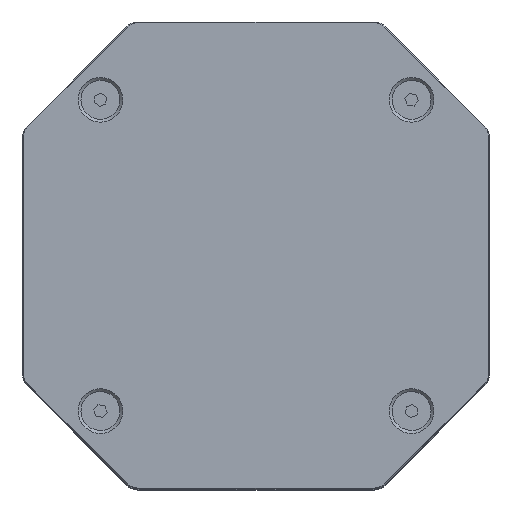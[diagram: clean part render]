
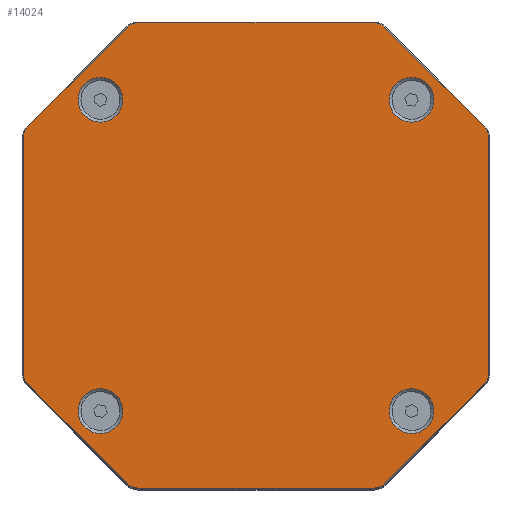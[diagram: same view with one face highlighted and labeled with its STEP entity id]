
A CAD part, top view. The second image highlights one B-rep face of the part: STEP entity #14024.
In plain terms, the highlighted planar face has unit normal (0, 0, 1) as drawn and (0, 1, 0) by its records, which use the part's own axes.
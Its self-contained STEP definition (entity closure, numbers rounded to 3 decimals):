
#848=FACE_BOUND('',#2351,.T.);
#849=FACE_BOUND('',#2352,.T.);
#850=FACE_BOUND('',#2353,.T.);
#851=FACE_BOUND('',#2354,.T.);
#1518=FACE_OUTER_BOUND('',#2350,.T.);
#2350=EDGE_LOOP('',(#12576,#12577,#12578,#12579,#12580,#12581,#12582,#12583,
#12584,#12585,#12586,#12587,#12588,#12589,#12590,#12591));
#2351=EDGE_LOOP('',(#12592));
#2352=EDGE_LOOP('',(#12593));
#2353=EDGE_LOOP('',(#12594));
#2354=EDGE_LOOP('',(#12595));
#3449=LINE('',#25157,#4635);
#3454=LINE('',#25170,#4640);
#3457=LINE('',#25181,#4643);
#3462=LINE('',#25194,#4648);
#3465=LINE('',#25204,#4651);
#3469=LINE('',#25213,#4655);
#3472=LINE('',#25221,#4658);
#3475=LINE('',#25229,#4661);
#4635=VECTOR('',#19692,10.);
#4640=VECTOR('',#19705,10.);
#4643=VECTOR('',#19716,10.);
#4648=VECTOR('',#19729,10.);
#4651=VECTOR('',#19740,10.);
#4655=VECTOR('',#19750,10.);
#4658=VECTOR('',#19759,10.);
#4661=VECTOR('',#19768,10.);
#5536=CIRCLE('',#15759,3.8);
#5538=CIRCLE('',#15763,3.8);
#5540=CIRCLE('',#15767,3.8);
#5542=CIRCLE('',#15771,3.8);
#5543=CIRCLE('',#15774,3.8);
#5544=CIRCLE('',#15777,3.8);
#5545=CIRCLE('',#15780,3.8);
#5546=CIRCLE('',#15783,3.8);
#5547=CIRCLE('',#15792,5.75);
#5548=CIRCLE('',#15793,5.75);
#5549=CIRCLE('',#15794,5.75);
#5550=CIRCLE('',#15795,5.75);
#6771=VERTEX_POINT('',#25154);
#6772=VERTEX_POINT('',#25156);
#6774=VERTEX_POINT('',#25162);
#6776=VERTEX_POINT('',#25168);
#6778=VERTEX_POINT('',#25174);
#6780=VERTEX_POINT('',#25179);
#6782=VERTEX_POINT('',#25186);
#6784=VERTEX_POINT('',#25192);
#6786=VERTEX_POINT('',#25198);
#6787=VERTEX_POINT('',#25202);
#6788=VERTEX_POINT('',#25207);
#6789=VERTEX_POINT('',#25211);
#6790=VERTEX_POINT('',#25215);
#6791=VERTEX_POINT('',#25219);
#6792=VERTEX_POINT('',#25223);
#6793=VERTEX_POINT('',#25227);
#6794=VERTEX_POINT('',#25247);
#6795=VERTEX_POINT('',#25249);
#6796=VERTEX_POINT('',#25251);
#6797=VERTEX_POINT('',#25253);
#8707=EDGE_CURVE('',#6771,#6772,#3449,.T.);
#8711=EDGE_CURVE('',#6774,#6771,#5536,.T.);
#8714=EDGE_CURVE('',#6776,#6774,#3454,.T.);
#8717=EDGE_CURVE('',#6778,#6776,#5538,.T.);
#8719=EDGE_CURVE('',#6780,#6778,#3457,.T.);
#8723=EDGE_CURVE('',#6782,#6780,#5540,.T.);
#8726=EDGE_CURVE('',#6784,#6782,#3462,.T.);
#8729=EDGE_CURVE('',#6786,#6784,#5542,.T.);
#8731=EDGE_CURVE('',#6787,#6786,#3465,.T.);
#8734=EDGE_CURVE('',#6788,#6787,#5543,.T.);
#8736=EDGE_CURVE('',#6789,#6788,#3469,.T.);
#8738=EDGE_CURVE('',#6790,#6789,#5544,.T.);
#8740=EDGE_CURVE('',#6791,#6790,#3472,.T.);
#8742=EDGE_CURVE('',#6792,#6791,#5545,.T.);
#8744=EDGE_CURVE('',#6793,#6792,#3475,.T.);
#8745=EDGE_CURVE('',#6772,#6793,#5546,.T.);
#8753=EDGE_CURVE('',#6794,#6794,#5547,.T.);
#8754=EDGE_CURVE('',#6795,#6795,#5548,.T.);
#8755=EDGE_CURVE('',#6796,#6796,#5549,.T.);
#8756=EDGE_CURVE('',#6797,#6797,#5550,.T.);
#12576=ORIENTED_EDGE('',*,*,#8707,.F.);
#12577=ORIENTED_EDGE('',*,*,#8711,.F.);
#12578=ORIENTED_EDGE('',*,*,#8714,.F.);
#12579=ORIENTED_EDGE('',*,*,#8717,.F.);
#12580=ORIENTED_EDGE('',*,*,#8719,.F.);
#12581=ORIENTED_EDGE('',*,*,#8723,.F.);
#12582=ORIENTED_EDGE('',*,*,#8726,.F.);
#12583=ORIENTED_EDGE('',*,*,#8729,.F.);
#12584=ORIENTED_EDGE('',*,*,#8731,.F.);
#12585=ORIENTED_EDGE('',*,*,#8734,.F.);
#12586=ORIENTED_EDGE('',*,*,#8736,.F.);
#12587=ORIENTED_EDGE('',*,*,#8738,.F.);
#12588=ORIENTED_EDGE('',*,*,#8740,.F.);
#12589=ORIENTED_EDGE('',*,*,#8742,.F.);
#12590=ORIENTED_EDGE('',*,*,#8744,.F.);
#12591=ORIENTED_EDGE('',*,*,#8745,.F.);
#12592=ORIENTED_EDGE('',*,*,#8753,.T.);
#12593=ORIENTED_EDGE('',*,*,#8754,.T.);
#12594=ORIENTED_EDGE('',*,*,#8755,.T.);
#12595=ORIENTED_EDGE('',*,*,#8756,.T.);
#13324=PLANE('',#15791);
#14024=ADVANCED_FACE('',(#1518,#848,#849,#850,#851),#13324,.T.);
#15759=AXIS2_PLACEMENT_3D('',#25164,#19699,#19700);
#15763=AXIS2_PLACEMENT_3D('',#25176,#19711,#19712);
#15767=AXIS2_PLACEMENT_3D('',#25188,#19723,#19724);
#15771=AXIS2_PLACEMENT_3D('',#25200,#19735,#19736);
#15774=AXIS2_PLACEMENT_3D('',#25209,#19745,#19746);
#15777=AXIS2_PLACEMENT_3D('',#25217,#19754,#19755);
#15780=AXIS2_PLACEMENT_3D('',#25225,#19763,#19764);
#15783=AXIS2_PLACEMENT_3D('',#25231,#19771,#19772);
#15791=AXIS2_PLACEMENT_3D('',#25246,#19794,#19795);
#15792=AXIS2_PLACEMENT_3D('',#25248,#19796,#19797);
#15793=AXIS2_PLACEMENT_3D('',#25250,#19798,#19799);
#15794=AXIS2_PLACEMENT_3D('',#25252,#19800,#19801);
#15795=AXIS2_PLACEMENT_3D('',#25254,#19802,#19803);
#19692=DIRECTION('',(0.,0.,-1.));
#19699=DIRECTION('center_axis',(0.,-1.,0.));
#19700=DIRECTION('ref_axis',(-0.924,0.,0.383));
#19705=DIRECTION('',(-0.707,0.,-0.707));
#19711=DIRECTION('center_axis',(0.,-1.,0.));
#19712=DIRECTION('ref_axis',(-0.383,0.,0.924));
#19716=DIRECTION('',(-1.,0.,0.));
#19723=DIRECTION('center_axis',(0.,-1.,0.));
#19724=DIRECTION('ref_axis',(0.383,0.,0.924));
#19729=DIRECTION('',(-0.707,0.,0.707));
#19735=DIRECTION('center_axis',(0.,-1.,0.));
#19736=DIRECTION('ref_axis',(0.924,0.,0.383));
#19740=DIRECTION('',(0.,0.,1.));
#19745=DIRECTION('center_axis',(0.,-1.,0.));
#19746=DIRECTION('ref_axis',(0.924,0.,-0.383));
#19750=DIRECTION('',(0.707,0.,0.707));
#19754=DIRECTION('center_axis',(0.,-1.,0.));
#19755=DIRECTION('ref_axis',(0.383,0.,-0.924));
#19759=DIRECTION('',(1.,0.,0.));
#19763=DIRECTION('center_axis',(0.,-1.,0.));
#19764=DIRECTION('ref_axis',(-0.383,0.,-0.924));
#19768=DIRECTION('',(0.707,0.,-0.707));
#19771=DIRECTION('center_axis',(0.,-1.,0.));
#19772=DIRECTION('ref_axis',(-0.924,0.,-0.383));
#19794=DIRECTION('center_axis',(0.,1.,0.));
#19795=DIRECTION('ref_axis',(0.,0.,1.));
#19796=DIRECTION('center_axis',(0.,-1.,0.));
#19797=DIRECTION('ref_axis',(1.,0.,0.));
#19798=DIRECTION('center_axis',(0.,-1.,0.));
#19799=DIRECTION('ref_axis',(1.,0.,0.));
#19800=DIRECTION('center_axis',(0.,-1.,0.));
#19801=DIRECTION('ref_axis',(1.,0.,0.));
#19802=DIRECTION('center_axis',(0.,-1.,0.));
#19803=DIRECTION('ref_axis',(1.,0.,0.));
#25154=CARTESIAN_POINT('',(-59.8,10.,30.343));
#25156=CARTESIAN_POINT('',(-59.8,10.,-30.343));
#25157=CARTESIAN_POINT('',(-59.8,10.,-30.));
#25162=CARTESIAN_POINT('',(-58.687,10.,33.03));
#25164=CARTESIAN_POINT('Origin',(-56.,10.,30.343));
#25168=CARTESIAN_POINT('',(-33.03,10.,58.687));
#25170=CARTESIAN_POINT('',(-45.859,10.,45.859));
#25174=CARTESIAN_POINT('',(-30.343,10.,59.8));
#25176=CARTESIAN_POINT('Origin',(-30.343,10.,56.));
#25179=CARTESIAN_POINT('',(30.343,10.,59.8));
#25181=CARTESIAN_POINT('',(-30.,10.,59.8));
#25186=CARTESIAN_POINT('',(33.03,10.,58.687));
#25188=CARTESIAN_POINT('Origin',(30.343,10.,56.));
#25192=CARTESIAN_POINT('',(58.687,10.,33.03));
#25194=CARTESIAN_POINT('',(45.859,10.,45.859));
#25198=CARTESIAN_POINT('',(59.8,10.,30.343));
#25200=CARTESIAN_POINT('Origin',(56.,10.,30.343));
#25202=CARTESIAN_POINT('',(59.8,10.,-30.343));
#25204=CARTESIAN_POINT('',(59.8,10.,30.));
#25207=CARTESIAN_POINT('',(58.687,10.,-33.03));
#25209=CARTESIAN_POINT('Origin',(56.,10.,-30.343));
#25211=CARTESIAN_POINT('',(33.03,10.,-58.687));
#25213=CARTESIAN_POINT('',(45.859,10.,-45.859));
#25215=CARTESIAN_POINT('',(30.343,10.,-59.8));
#25217=CARTESIAN_POINT('Origin',(30.343,10.,-56.));
#25219=CARTESIAN_POINT('',(-30.343,10.,-59.8));
#25221=CARTESIAN_POINT('',(30.,10.,-59.8));
#25223=CARTESIAN_POINT('',(-33.03,10.,-58.687));
#25225=CARTESIAN_POINT('Origin',(-30.343,10.,-56.));
#25227=CARTESIAN_POINT('',(-58.687,10.,-33.03));
#25229=CARTESIAN_POINT('',(-45.859,10.,-45.859));
#25231=CARTESIAN_POINT('Origin',(-56.,10.,-30.343));
#25246=CARTESIAN_POINT('Origin',(0.,10.,0.));
#25247=CARTESIAN_POINT('',(34.25,10.,-40.));
#25248=CARTESIAN_POINT('Origin',(40.,10.,-40.));
#25249=CARTESIAN_POINT('',(-45.75,10.,40.));
#25250=CARTESIAN_POINT('Origin',(-40.,10.,40.));
#25251=CARTESIAN_POINT('',(-45.75,10.,-40.));
#25252=CARTESIAN_POINT('Origin',(-40.,10.,-40.));
#25253=CARTESIAN_POINT('',(34.25,10.,40.));
#25254=CARTESIAN_POINT('Origin',(40.,10.,40.));
